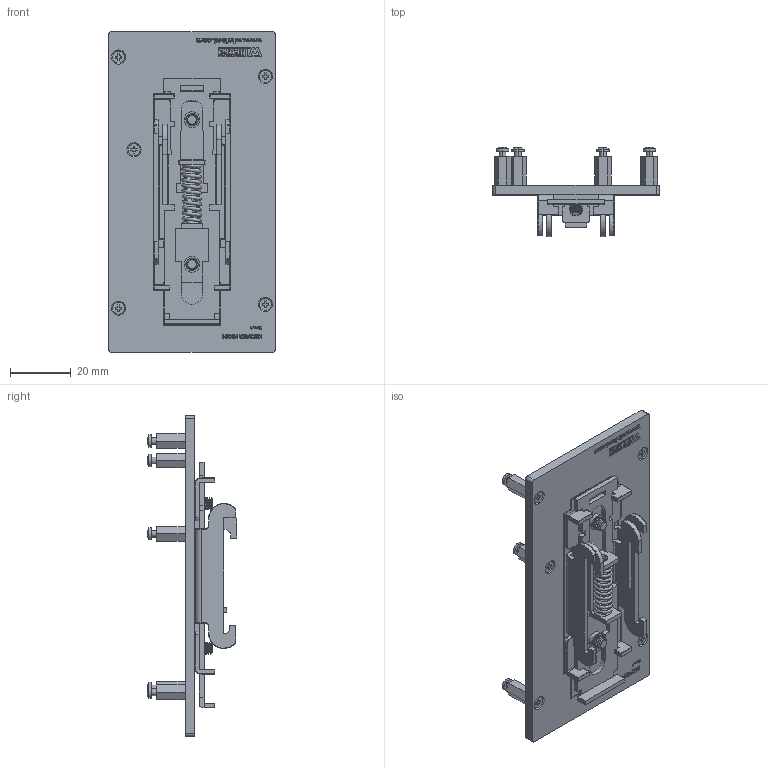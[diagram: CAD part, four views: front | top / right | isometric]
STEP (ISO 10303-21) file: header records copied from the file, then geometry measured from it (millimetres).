
FILE_DESCRIPTION (( 'STEP AP214' ), '1' );
FILE_NAME ('dinp02-rd01_rev_a.step', '2023-03-28T17:04:43', ( '' ), ( '' ), 'SwSTEP 2.0', 'SolidWorks 2018', '' );
FILE_SCHEMA (( 'AUTOMOTIVE_DESIGN' ));
Length unit declared in the file: inch
Products named in the file (7): M4 8mm FH_M4 8mm FH; dinp02-rd01-plate; #2 Flathead Machine Screw 0.25 length; dinp02-rd01_rev_a; #2 Panhead Machine Screw 0.25 length; dinm23; #2-56FF Nylon Standoff 0.375 length
Assembly tree (22 placements, depth 2):
  dinp02-rd01_rev_a
    dinp02-rd01-plate
    dinm23
    M4 8mm FH_M4 8mm FH  x2
    #2-56FF Nylon Standoff 0.375 length  x6
    #2 Flathead Machine Screw 0.25 length  x6
    #2 Panhead Machine Screw 0.25 length  x6
Bounding box: 54.61 x 29.47 x 105.41 mm (x, y, z)
Volume: 24817 mm3; surface area: 24685.4 mm2
Topology: 24 solids, 24 shells, 3131 faces, 8374 edges, 5507 vertices
Faces by surface type: plane 2039, bspline 592, cylinder 342, cone 90, torus 48, sphere 20
Entity records: 146622 total; most frequent: CARTESIAN_POINT 53088, ORIENTED_EDGE 14634, DIRECTION 10948, EDGE_CURVE 7317, VECTOR 5452, LINE 5452, VERTEX_POINT 4817, EDGE_LOOP 3076
